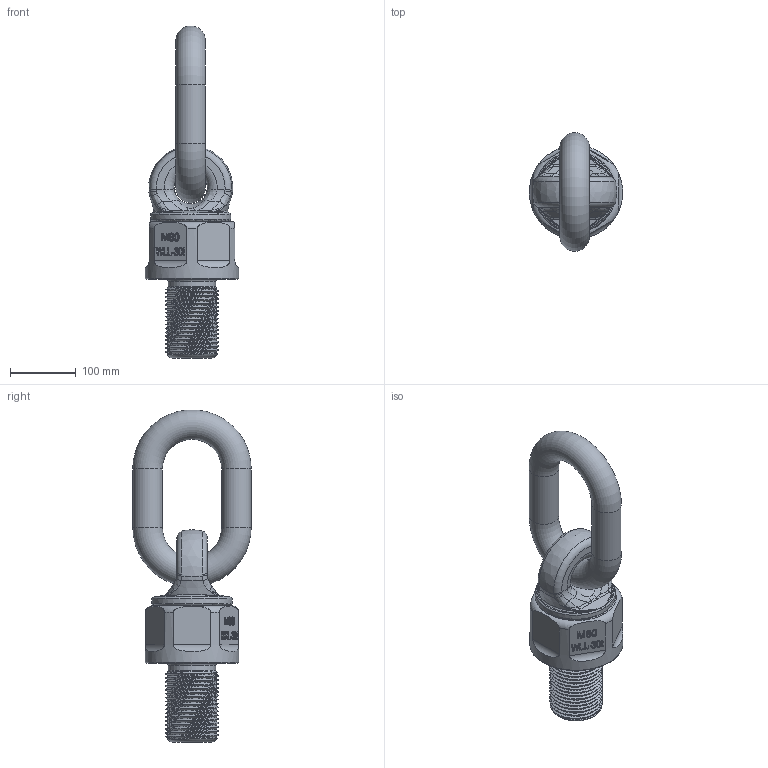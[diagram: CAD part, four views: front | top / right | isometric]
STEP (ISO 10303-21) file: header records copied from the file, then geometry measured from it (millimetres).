
FILE_DESCRIPTION(/* description */ (''),/* implementation_level */ '2;1');
FILE_NAME(/* name */ 'YTJ-M80.stp',/* time_stamp */ '2025-04-02T11:25:42+08:00',/* author */ (''),/* organization */ (''),/* preprocessor_version */ 'ST-DEVELOPER v16',/* originating_system */ 'SIEMENS PLM Software NX 10.0',/* authorisation */ '');
FILE_SCHEMA (('AP203_CONFIGURATION_CONTROLLED_3D_DESIGN_OF_MECHANICAL_PARTS_AND_ASSEMBLIES_MIM_LF { 1 0 10303 403 2 1 2}'));
Length unit declared in the file: millimetre
Products named in the file (1): Admi177C9AD32iaz
Bounding box: 142 x 180 x 504.74 mm (x, y, z)
Volume: 3355543.8 mm3; surface area: 277315.7 mm2
Topology: 3 solids, 3 shells, 280 faces, 705 edges, 444 vertices
Faces by surface type: plane 111, bspline 62, extrusion 52, cylinder 23, torus 22, cone 5, sphere 5
Full cylindrical faces by diameter (mm): 45 x2, 72.4 x1, 82 x2, 122 x1, 142 x1
Entity records: 15525 total; most frequent: CARTESIAN_POINT 9573, ORIENTED_EDGE 1332, DIRECTION 947, EDGE_CURVE 666, VERTEX_POINT 431, AXIS2_PLACEMENT_3D 329, EDGE_LOOP 321, B_SPLINE_CURVE_WITH_KNOTS 318
